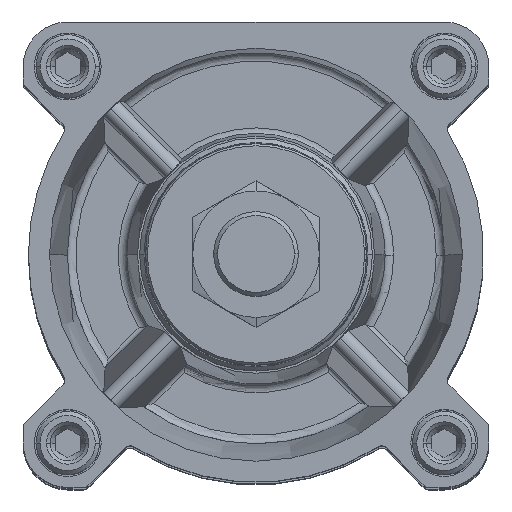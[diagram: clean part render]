
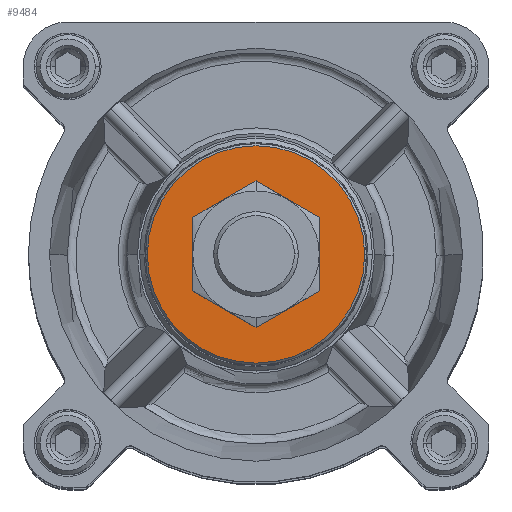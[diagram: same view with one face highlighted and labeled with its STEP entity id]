
A CAD part, top view. The second image highlights one B-rep face of the part: STEP entity #9484.
In plain terms, the highlighted planar face has unit normal (0, 0, 1).
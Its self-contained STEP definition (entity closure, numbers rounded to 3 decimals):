
#494 = ORIENTED_EDGE ( 'NONE', *, *, #550, .T. ) ;
#550 = EDGE_CURVE ( 'NONE', #15992, #7439, #7297, .T. ) ;
#829 = AXIS2_PLACEMENT_3D ( 'NONE', #8020, #6497, #2497 ) ;
#1439 = VERTEX_POINT ( 'NONE', #4235 ) ;
#1619 = ORIENTED_EDGE ( 'NONE', *, *, #15707, .F. ) ;
#2312 = DIRECTION ( 'NONE',  ( -1., 0., 0. ) ) ;
#2435 = EDGE_CURVE ( 'NONE', #16170, #1439, #16107, .T. ) ;
#2497 = DIRECTION ( 'NONE',  ( -1., 0., 0. ) ) ;
#2699 = DIRECTION ( 'NONE',  ( -1., 0., 0. ) ) ;
#3787 = CARTESIAN_POINT ( 'NONE',  ( -25.681, 0., 38. ) ) ;
#3884 = DIRECTION ( 'NONE',  ( -1., 0., 0. ) ) ;
#4235 = CARTESIAN_POINT ( 'NONE',  ( 25.681, 0., 38. ) ) ;
#4359 = DIRECTION ( 'NONE',  ( 0., -1., 0. ) ) ;
#4509 = EDGE_LOOP ( 'NONE', ( #14659, #494 ) ) ;
#6497 = DIRECTION ( 'NONE',  ( 0., 0., -1. ) ) ;
#7272 = DIRECTION ( 'NONE',  ( 0., 0., -1. ) ) ;
#7297 = CIRCLE ( 'NONE', #12495, 12.5 ) ;
#7439 = VERTEX_POINT ( 'NONE', #16984 ) ;
#7524 = DIRECTION ( 'NONE',  ( 0., 0., -1. ) ) ;
#7534 = CIRCLE ( 'NONE', #829, 12.5 ) ;
#8020 = CARTESIAN_POINT ( 'NONE',  ( 0., 0., 38. ) ) ;
#8949 = PLANE ( 'NONE',  #18490 ) ;
#9484 = ADVANCED_FACE ( 'NONE', ( #14780, #13263 ), #8949, .F. ) ;
#9952 = CARTESIAN_POINT ( 'NONE',  ( 0., 0., 38. ) ) ;
#10714 = EDGE_CURVE ( 'NONE', #7439, #15992, #7534, .T. ) ;
#10844 = ORIENTED_EDGE ( 'NONE', *, *, #2435, .F. ) ;
#11081 = CARTESIAN_POINT ( 'NONE',  ( 0., 0., 38. ) ) ;
#11144 = DIRECTION ( 'NONE',  ( 0., 0., -1. ) ) ;
#12170 = CIRCLE ( 'NONE', #15209, 25.681 ) ;
#12495 = AXIS2_PLACEMENT_3D ( 'NONE', #11081, #15385, #2312 ) ;
#13263 = FACE_BOUND ( 'NONE', #4509, .T. ) ;
#14408 = CARTESIAN_POINT ( 'NONE',  ( 12.5, 0., 38. ) ) ;
#14659 = ORIENTED_EDGE ( 'NONE', *, *, #10714, .T. ) ;
#14780 = FACE_OUTER_BOUND ( 'NONE', #16649, .T. ) ;
#15209 = AXIS2_PLACEMENT_3D ( 'NONE', #9952, #7272, #2699 ) ;
#15385 = DIRECTION ( 'NONE',  ( 0., 0., -1. ) ) ;
#15442 = CARTESIAN_POINT ( 'NONE',  ( 0., 0., 38. ) ) ;
#15707 = EDGE_CURVE ( 'NONE', #1439, #16170, #12170, .T. ) ;
#15992 = VERTEX_POINT ( 'NONE', #14408 ) ;
#16107 = CIRCLE ( 'NONE', #17941, 25.681 ) ;
#16170 = VERTEX_POINT ( 'NONE', #3787 ) ;
#16649 = EDGE_LOOP ( 'NONE', ( #10844, #1619 ) ) ;
#16984 = CARTESIAN_POINT ( 'NONE',  ( -12.5, 0., 38. ) ) ;
#17831 = CARTESIAN_POINT ( 'NONE',  ( 0., 0., 38. ) ) ;
#17941 = AXIS2_PLACEMENT_3D ( 'NONE', #15442, #11144, #3884 ) ;
#18490 = AXIS2_PLACEMENT_3D ( 'NONE', #17831, #7524, #4359 ) ;
